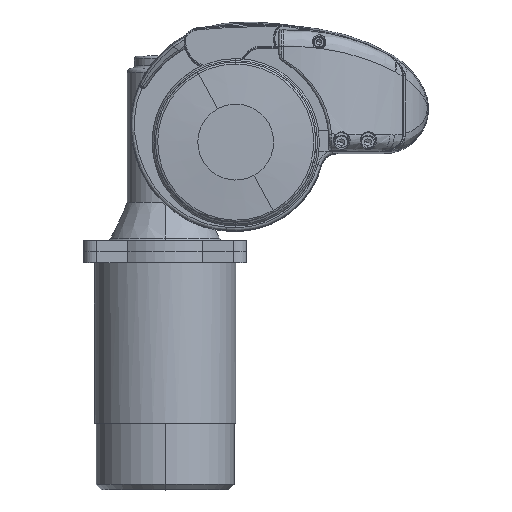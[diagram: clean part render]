
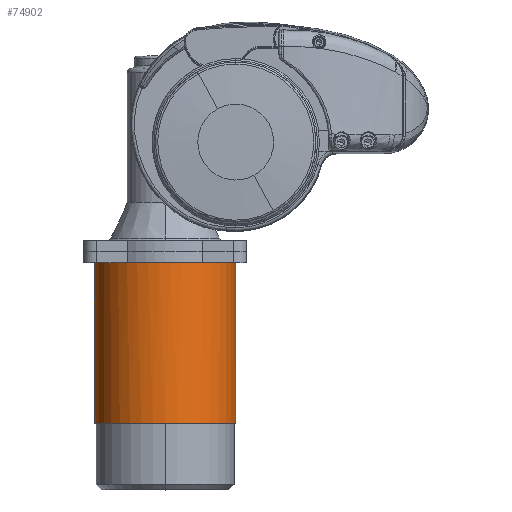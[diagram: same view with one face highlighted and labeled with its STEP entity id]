
A CAD part, top view. The second image highlights one B-rep face of the part: STEP entity #74902.
In plain terms, the highlighted cylindrical face has radius 63.5 mm (diameter 127 mm), a partial arc.
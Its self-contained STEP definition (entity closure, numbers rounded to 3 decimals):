
#74076=CARTESIAN_POINT('',(-63.5,-40.,108.));
#74077=DIRECTION('',(0.,0.,1.));
#74078=DIRECTION('',(0.979,0.204,0.));
#74079=AXIS2_PLACEMENT_3D('',#74076,#74077,#74078);
#74094=CARTESIAN_POINT('',(-63.5,-40.,108.));
#74095=DIRECTION('',(0.,0.,1.));
#74096=DIRECTION('',(-0.666,0.746,0.));
#74097=AXIS2_PLACEMENT_3D('',#74094,#74095,#74096);
#74146=CARTESIAN_POINT('',(-63.5,-40.,252.));
#74147=DIRECTION('',(0.,0.,1.));
#74148=DIRECTION('',(1.,0.,0.));
#74149=AXIS2_PLACEMENT_3D('',#74146,#74147,#74148);
#74151=DIRECTION('',(0.,0.,1.));
#74152=VECTOR('',#74151,144.);
#74153=CARTESIAN_POINT('',(0.,-40.,108.));
#74154=LINE('',#74153,#74152);
#74296=DIRECTION('',(0.,0.,1.));
#74297=VECTOR('',#74296,144.);
#74298=CARTESIAN_POINT('',(-127.,-40.,108.));
#74299=LINE('',#74298,#74297);
#74438=CARTESIAN_POINT('',(-63.5,-40.,108.));
#74439=DIRECTION('',(0.,0.,1.));
#74440=DIRECTION('',(0.666,0.746,0.));
#74441=AXIS2_PLACEMENT_3D('',#74438,#74439,#74440);
#74443=CARTESIAN_POINT('',(-63.5,-40.,108.));
#74444=DIRECTION('',(0.,0.,1.));
#74445=DIRECTION('',(-0.979,0.204,0.));
#74446=AXIS2_PLACEMENT_3D('',#74443,#74444,#74445);
#74458=CARTESIAN_POINT('',(-63.5,-40.,108.));
#74459=DIRECTION('',(0.,0.,1.));
#74460=DIRECTION('',(1.,0.,0.));
#74461=AXIS2_PLACEMENT_3D('',#74458,#74459,#74460);
#74610=CARTESIAN_POINT('',(-1.331,-27.069,108.));
#74611=CARTESIAN_POINT('',(-21.217,7.375,108.));
#74612=VERTEX_POINT('',#74610);
#74613=VERTEX_POINT('',#74611);
#74614=CARTESIAN_POINT('',(-105.783,7.375,108.));
#74615=CARTESIAN_POINT('',(-125.669,-27.069,108.));
#74616=VERTEX_POINT('',#74614);
#74617=VERTEX_POINT('',#74615);
#74634=CARTESIAN_POINT('',(0.,-40.,108.));
#74635=VERTEX_POINT('',#74634);
#74636=CARTESIAN_POINT('',(-127.,-40.,108.));
#74637=VERTEX_POINT('',#74636);
#74642=CARTESIAN_POINT('',(0.,-40.,252.));
#74643=CARTESIAN_POINT('',(-127.,-40.,252.));
#74644=VERTEX_POINT('',#74642);
#74645=VERTEX_POINT('',#74643);
#74881=CARTESIAN_POINT('',(-63.5,-40.,108.));
#74882=DIRECTION('',(0.,0.,1.));
#74883=DIRECTION('',(1.,0.,0.));
#74884=AXIS2_PLACEMENT_3D('',#74881,#74882,#74883);
#74885=CYLINDRICAL_SURFACE('',#74884,63.5);
#74887=ORIENTED_EDGE('',*,*,#74886,.T.);
#74889=ORIENTED_EDGE('',*,*,#74888,.F.);
#74891=ORIENTED_EDGE('',*,*,#74890,.F.);
#74892=ORIENTED_EDGE('',*,*,#74792,.F.);
#74894=ORIENTED_EDGE('',*,*,#74893,.F.);
#74895=ORIENTED_EDGE('',*,*,#74770,.F.);
#74897=ORIENTED_EDGE('',*,*,#74896,.F.);
#74899=ORIENTED_EDGE('',*,*,#74898,.T.);
#74900=EDGE_LOOP('',(#74887,#74889,#74891,#74892,#74894,#74895,#74897,#74899));
#74901=FACE_OUTER_BOUND('',#74900,.F.);
#74902=ADVANCED_FACE('',(#74901),#74885,.T.);
#74080=CIRCLE('',#74079,63.5);
#74098=CIRCLE('',#74097,63.5);
#74150=CIRCLE('',#74149,63.5);
#74442=CIRCLE('',#74441,63.5);
#74447=CIRCLE('',#74446,63.5);
#74462=CIRCLE('',#74461,63.5);
#74770=EDGE_CURVE('',#74612,#74613,#74080,.T.);
#74792=EDGE_CURVE('',#74616,#74617,#74098,.T.);
#74886=EDGE_CURVE('',#74644,#74645,#74150,.T.);
#74888=EDGE_CURVE('',#74637,#74645,#74299,.T.);
#74890=EDGE_CURVE('',#74617,#74637,#74447,.T.);
#74893=EDGE_CURVE('',#74613,#74616,#74442,.T.);
#74896=EDGE_CURVE('',#74635,#74612,#74462,.T.);
#74898=EDGE_CURVE('',#74635,#74644,#74154,.T.);
